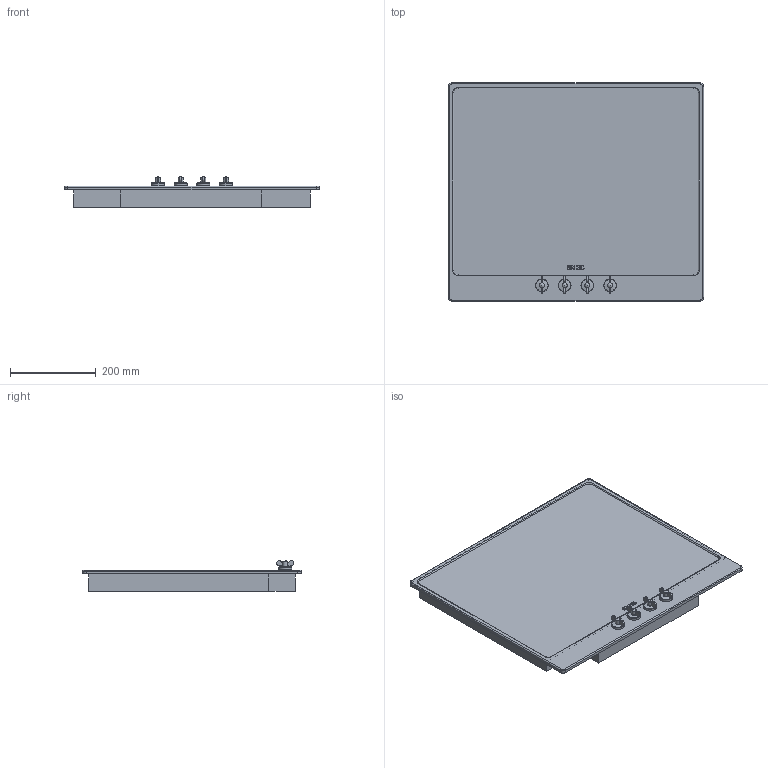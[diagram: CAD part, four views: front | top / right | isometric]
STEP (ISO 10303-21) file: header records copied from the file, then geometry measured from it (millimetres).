
FILE_DESCRIPTION(/* description */ (''),/* implementation_level */ '2;1');
FILE_NAME(/* name */ 'piano p864.stp',/* time_stamp */ '2018-05-14T10:04:01+02:00',/* author */ (''),/* organization */ (''),/* preprocessor_version */ 'ST-DEVELOPER v16',/* originating_system */ 'SIEMENS PLM Software NX 11.0',/* authorisation */ '');
FILE_SCHEMA (('AUTOMOTIVE_DESIGN { 1 0 10303 214 3 1 1 1 }'));
Length unit declared in the file: millimetre
Products named in the file (1): gobb1EBCCCB6phiu
Bounding box: 596 x 510 x 72.15 mm (x, y, z)
Volume: 12666933 mm3; surface area: 1779580.9 mm2
Topology: 15 solids, 15 shells, 235 faces, 553 edges, 362 vertices
Faces by surface type: plane 134, cylinder 80, torus 12, cone 4, sphere 4, extrusion 1
Full cylindrical faces by diameter (mm): 6 x4, 12 x4, 15 x4, 30 x4
Entity records: 6570 total; most frequent: DIRECTION 1176, CARTESIAN_POINT 1087, ORIENTED_EDGE 1010, EDGE_CURVE 505, AXIS2_PLACEMENT_3D 434, VERTEX_POINT 346, VECTOR 308, LINE 307
